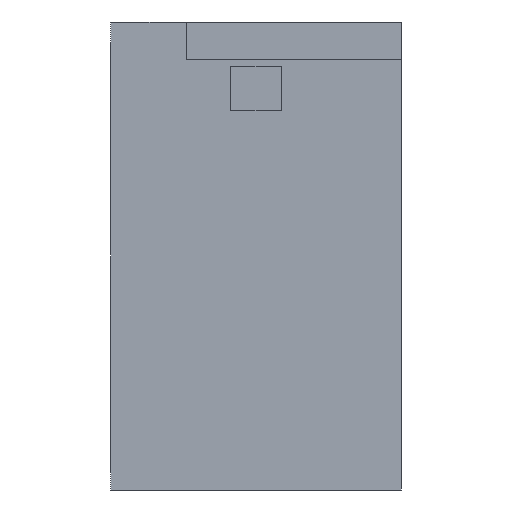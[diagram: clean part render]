
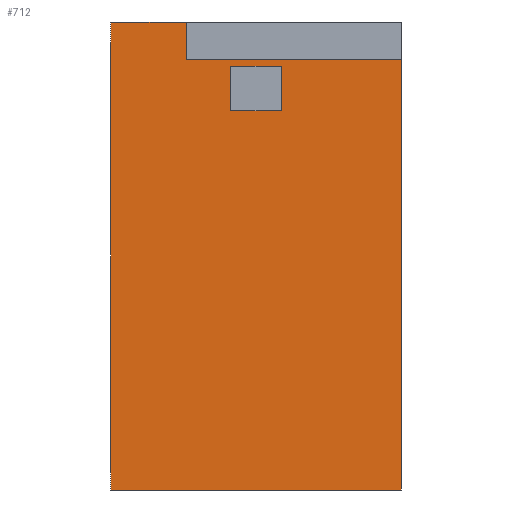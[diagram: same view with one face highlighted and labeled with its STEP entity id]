
A CAD part, front view. The second image highlights one B-rep face of the part: STEP entity #712.
In plain terms, the highlighted planar face has unit normal (0, -1, 0).
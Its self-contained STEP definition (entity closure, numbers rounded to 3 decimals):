
#712 = ADVANCED_FACE('',(#713,#763),#797,.F.);
#713 = FACE_BOUND('',#714,.F.);
#714 = EDGE_LOOP('',(#715,#725,#733,#741,#749,#757));
#715 = ORIENTED_EDGE('',*,*,#716,.F.);
#716 = EDGE_CURVE('',#717,#719,#721,.T.);
#717 = VERTEX_POINT('',#718);
#718 = CARTESIAN_POINT('',(23.,-42.,191.));
#719 = VERTEX_POINT('',#720);
#720 = CARTESIAN_POINT('',(23.,-42.,259.));
#721 = LINE('',#722,#723);
#722 = CARTESIAN_POINT('',(23.,-42.,191.));
#723 = VECTOR('',#724,1.);
#724 = DIRECTION('',(0.,0.,1.));
#725 = ORIENTED_EDGE('',*,*,#726,.F.);
#726 = EDGE_CURVE('',#727,#717,#729,.T.);
#727 = VERTEX_POINT('',#728);
#728 = CARTESIAN_POINT('',(-23.,-42.,191.));
#729 = LINE('',#730,#731);
#730 = CARTESIAN_POINT('',(-23.,-42.,191.));
#731 = VECTOR('',#732,1.);
#732 = DIRECTION('',(1.,0.,-0.));
#733 = ORIENTED_EDGE('',*,*,#734,.T.);
#734 = EDGE_CURVE('',#727,#735,#737,.T.);
#735 = VERTEX_POINT('',#736);
#736 = CARTESIAN_POINT('',(-23.,-42.,265.));
#737 = LINE('',#738,#739);
#738 = CARTESIAN_POINT('',(-23.,-42.,191.));
#739 = VECTOR('',#740,1.);
#740 = DIRECTION('',(0.,0.,1.));
#741 = ORIENTED_EDGE('',*,*,#742,.T.);
#742 = EDGE_CURVE('',#735,#743,#745,.T.);
#743 = VERTEX_POINT('',#744);
#744 = CARTESIAN_POINT('',(-11.,-42.,265.));
#745 = LINE('',#746,#747);
#746 = CARTESIAN_POINT('',(-23.,-42.,265.));
#747 = VECTOR('',#748,1.);
#748 = DIRECTION('',(1.,0.,-0.));
#749 = ORIENTED_EDGE('',*,*,#750,.F.);
#750 = EDGE_CURVE('',#751,#743,#753,.T.);
#751 = VERTEX_POINT('',#752);
#752 = CARTESIAN_POINT('',(-11.,-42.,259.));
#753 = LINE('',#754,#755);
#754 = CARTESIAN_POINT('',(-11.,-42.,259.));
#755 = VECTOR('',#756,1.);
#756 = DIRECTION('',(0.,0.,1.));
#757 = ORIENTED_EDGE('',*,*,#758,.T.);
#758 = EDGE_CURVE('',#751,#719,#759,.T.);
#759 = LINE('',#760,#761);
#760 = CARTESIAN_POINT('',(-11.,-42.,259.));
#761 = VECTOR('',#762,1.);
#762 = DIRECTION('',(1.,0.,-0.));
#763 = FACE_BOUND('',#764,.F.);
#764 = EDGE_LOOP('',(#765,#775,#783,#791));
#765 = ORIENTED_EDGE('',*,*,#766,.F.);
#766 = EDGE_CURVE('',#767,#769,#771,.T.);
#767 = VERTEX_POINT('',#768);
#768 = CARTESIAN_POINT('',(-4.,-42.,258.));
#769 = VERTEX_POINT('',#770);
#770 = CARTESIAN_POINT('',(4.,-42.,258.));
#771 = LINE('',#772,#773);
#772 = CARTESIAN_POINT('',(-13.5,-42.,258.));
#773 = VECTOR('',#774,1.);
#774 = DIRECTION('',(1.,0.,-0.));
#775 = ORIENTED_EDGE('',*,*,#776,.T.);
#776 = EDGE_CURVE('',#767,#777,#779,.T.);
#777 = VERTEX_POINT('',#778);
#778 = CARTESIAN_POINT('',(-4.,-42.,251.));
#779 = LINE('',#780,#781);
#780 = CARTESIAN_POINT('',(-4.,-42.,221.));
#781 = VECTOR('',#782,1.);
#782 = DIRECTION('',(-0.,0.,-1.));
#783 = ORIENTED_EDGE('',*,*,#784,.T.);
#784 = EDGE_CURVE('',#777,#785,#787,.T.);
#785 = VERTEX_POINT('',#786);
#786 = CARTESIAN_POINT('',(4.,-42.,251.));
#787 = LINE('',#788,#789);
#788 = CARTESIAN_POINT('',(-13.5,-42.,251.));
#789 = VECTOR('',#790,1.);
#790 = DIRECTION('',(1.,0.,-0.));
#791 = ORIENTED_EDGE('',*,*,#792,.F.);
#792 = EDGE_CURVE('',#769,#785,#793,.T.);
#793 = LINE('',#794,#795);
#794 = CARTESIAN_POINT('',(4.,-42.,221.));
#795 = VECTOR('',#796,1.);
#796 = DIRECTION('',(-0.,0.,-1.));
#797 = PLANE('',#798);
#798 = AXIS2_PLACEMENT_3D('',#799,#800,#801);
#799 = CARTESIAN_POINT('',(-23.,-42.,191.));
#800 = DIRECTION('',(-0.,1.,0.));
#801 = DIRECTION('',(0.,0.,1.));
